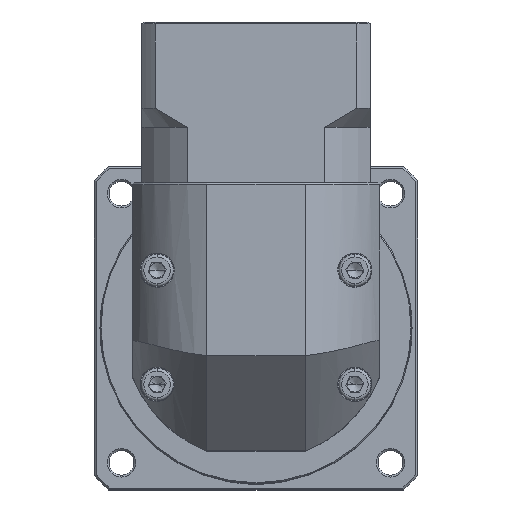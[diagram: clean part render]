
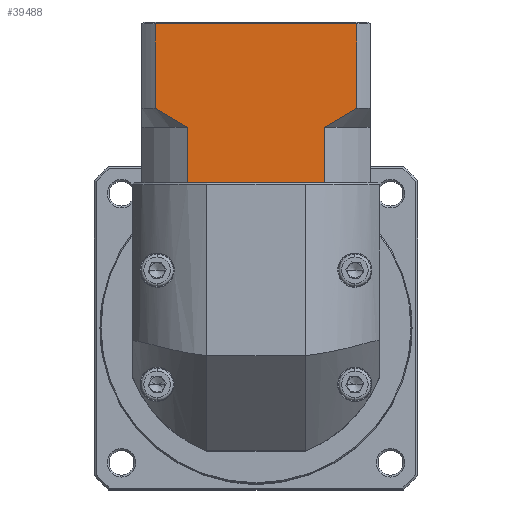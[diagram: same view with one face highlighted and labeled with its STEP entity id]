
A CAD part, top view. The second image highlights one B-rep face of the part: STEP entity #39488.
In plain terms, the highlighted planar face has unit normal (0, 0, 1).
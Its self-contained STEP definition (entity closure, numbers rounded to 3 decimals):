
#436 = VERTEX_POINT ( 'NONE', #126882 ) ;
#3073 = DIRECTION ( 'NONE',  ( 0., 0., -1. ) ) ;
#3935 = VERTEX_POINT ( 'NONE', #135924 ) ;
#4995 = CARTESIAN_POINT ( 'NONE',  ( -79.104, 93.278, 39.23 ) ) ;
#5825 = ORIENTED_EDGE ( 'NONE', *, *, #84017, .T. ) ;
#8866 = EDGE_CURVE ( 'NONE', #436, #20679, #84639, .T. ) ;
#9077 = VERTEX_POINT ( 'NONE', #47283 ) ;
#9106 = CARTESIAN_POINT ( 'NONE',  ( -67.132, 107.778, 39.23 ) ) ;
#10284 = VERTEX_POINT ( 'NONE', #45890 ) ;
#13516 = EDGE_CURVE ( 'NONE', #3935, #19823, #70612, .T. ) ;
#13572 = VECTOR ( 'NONE', #146207, 1000. ) ;
#15188 = EDGE_CURVE ( 'NONE', #9077, #46299, #96198, .T. ) ;
#19806 = LINE ( 'NONE', #33662, #113936 ) ;
#19823 = VERTEX_POINT ( 'NONE', #102069 ) ;
#20679 = VERTEX_POINT ( 'NONE', #156625 ) ;
#21797 = CARTESIAN_POINT ( 'NONE',  ( -31.076, 107.778, 39.23 ) ) ;
#25243 = CARTESIAN_POINT ( 'NONE',  ( -70.015, 109.329, 39.23 ) ) ;
#27470 = VECTOR ( 'NONE', #99664, 1000. ) ;
#28885 = VECTOR ( 'NONE', #31811, 1000. ) ;
#30969 = ORIENTED_EDGE ( 'NONE', *, *, #94186, .T. ) ;
#31811 = DIRECTION ( 'NONE',  ( 1., 0., 0. ) ) ;
#33164 = DIRECTION ( 'NONE',  ( -1., 0., 0. ) ) ;
#33662 = CARTESIAN_POINT ( 'NONE',  ( -79.104, 134.978, 39.23 ) ) ;
#36207 = VERTEX_POINT ( 'NONE', #141260 ) ;
#36264 = DIRECTION ( 'NONE',  ( 0., -1., 0. ) ) ;
#39319 = DIRECTION ( 'NONE',  ( 0., -1., 0. ) ) ;
#39488 = ADVANCED_FACE ( 'NONE', ( #107635 ), #87470, .F. ) ;
#41264 = DIRECTION ( 'NONE',  ( 0., 1., 0. ) ) ;
#45890 = CARTESIAN_POINT ( 'NONE',  ( -31.076, 93.278, 39.23 ) ) ;
#46299 = VERTEX_POINT ( 'NONE', #149725 ) ;
#47283 = CARTESIAN_POINT ( 'NONE',  ( -31.076, 107.778, 39.23 ) ) ;
#47488 = VECTOR ( 'NONE', #41264, 1000. ) ;
#49285 = CARTESIAN_POINT ( 'NONE',  ( -74.202, 111.878, 39.23 ) ) ;
#49821 = ORIENTED_EDGE ( 'NONE', *, *, #136361, .F. ) ;
#50004 = CARTESIAN_POINT ( 'NONE',  ( -22.647, 107.778, 39.23 ) ) ;
#51293 = ORIENTED_EDGE ( 'NONE', *, *, #8866, .T. ) ;
#53031 = ORIENTED_EDGE ( 'NONE', *, *, #15188, .T. ) ;
#54929 = CARTESIAN_POINT ( 'NONE',  ( -25.389, 111.002, 39.23 ) ) ;
#56577 = VECTOR ( 'NONE', #107371, 1000. ) ;
#58335 = EDGE_CURVE ( 'NONE', #9077, #10284, #90311, .T. ) ;
#62449 = EDGE_CURVE ( 'NONE', #78376, #10284, #150452, .T. ) ;
#65192 = CARTESIAN_POINT ( 'NONE',  ( -32.067, 93.278, 39.23 ) ) ;
#66789 = CARTESIAN_POINT ( 'NONE',  ( -29.62, 108.528, 39.23 ) ) ;
#70612 = LINE ( 'NONE', #102487, #47488 ) ;
#73894 = LINE ( 'NONE', #50004, #139303 ) ;
#74011 = CARTESIAN_POINT ( 'NONE',  ( -68.584, 108.525, 39.23 ) ) ;
#76629 = CARTESIAN_POINT ( 'NONE',  ( -79.104, 135.478, 39.23 ) ) ;
#78376 = VERTEX_POINT ( 'NONE', #65192 ) ;
#80878 = VECTOR ( 'NONE', #36264, 1000. ) ;
#84017 = EDGE_CURVE ( 'NONE', #3935, #128513, #114000, .T. ) ;
#84639 = LINE ( 'NONE', #4995, #28885 ) ;
#85908 = CARTESIAN_POINT ( 'NONE',  ( -75.562, 112.778, 39.23 ) ) ;
#87470 = PLANE ( 'NONE',  #130153 ) ;
#90131 = EDGE_LOOP ( 'NONE', ( #155188, #30969, #132637, #5825, #49821, #51293, #150153, #138583, #121424, #53031 ) ) ;
#90311 = LINE ( 'NONE', #21797, #80878 ) ;
#93095 = CARTESIAN_POINT ( 'NONE',  ( -24.009, 111.876, 39.23 ) ) ;
#94186 = EDGE_CURVE ( 'NONE', #36207, #19823, #19806, .T. ) ;
#96198 = B_SPLINE_CURVE_WITH_KNOTS ( 'NONE', 3,
 ( #153848, #66789, #152238, #54929, #93095, #154362 ),
 .UNSPECIFIED., .F., .F.,
 ( 4, 2, 4 ),
 ( 0.1, 0.104, 0.109 ),
 .UNSPECIFIED. ) ;
#99664 = DIRECTION ( 'NONE',  ( 1., 0., 0. ) ) ;
#99797 = DIRECTION ( 'NONE',  ( 0., 1., 0. ) ) ;
#102069 = CARTESIAN_POINT ( 'NONE',  ( -75.562, 134.978, 39.23 ) ) ;
#102487 = CARTESIAN_POINT ( 'NONE',  ( -75.562, 107.778, 39.23 ) ) ;
#107371 = DIRECTION ( 'NONE',  ( 0., 1., 0. ) ) ;
#107635 = FACE_OUTER_BOUND ( 'NONE', #90131, .T. ) ;
#108071 = CARTESIAN_POINT ( 'NONE',  ( -79.104, 93.278, 39.23 ) ) ;
#113470 = EDGE_CURVE ( 'NONE', #20679, #78376, #136541, .T. ) ;
#113936 = VECTOR ( 'NONE', #33164, 1000. ) ;
#114000 = B_SPLINE_CURVE_WITH_KNOTS ( 'NONE', 3,
 ( #85908, #49285, #135330, #25243, #74011, #114816 ),
 .UNSPECIFIED., .F., .F.,
 ( 4, 2, 4 ),
 ( 0.052, 0.057, 0.062 ),
 .UNSPECIFIED. ) ;
#114816 = CARTESIAN_POINT ( 'NONE',  ( -67.132, 107.778, 39.23 ) ) ;
#121424 = ORIENTED_EDGE ( 'NONE', *, *, #58335, .F. ) ;
#125930 = EDGE_CURVE ( 'NONE', #36207, #46299, #73894, .T. ) ;
#126882 = CARTESIAN_POINT ( 'NONE',  ( -67.132, 93.278, 39.23 ) ) ;
#128513 = VERTEX_POINT ( 'NONE', #159274 ) ;
#130153 = AXIS2_PLACEMENT_3D ( 'NONE', #76629, #3073, #99797 ) ;
#132637 = ORIENTED_EDGE ( 'NONE', *, *, #13516, .F. ) ;
#133577 = CARTESIAN_POINT ( 'NONE',  ( -79.104, 93.278, 39.23 ) ) ;
#135330 = CARTESIAN_POINT ( 'NONE',  ( -72.823, 111.005, 39.23 ) ) ;
#135924 = CARTESIAN_POINT ( 'NONE',  ( -75.562, 112.778, 39.23 ) ) ;
#136361 = EDGE_CURVE ( 'NONE', #436, #128513, #137429, .T. ) ;
#136541 = LINE ( 'NONE', #108071, #13572 ) ;
#137429 = LINE ( 'NONE', #9106, #56577 ) ;
#138583 = ORIENTED_EDGE ( 'NONE', *, *, #62449, .T. ) ;
#139303 = VECTOR ( 'NONE', #39319, 1000. ) ;
#141260 = CARTESIAN_POINT ( 'NONE',  ( -22.647, 134.978, 39.23 ) ) ;
#146207 = DIRECTION ( 'NONE',  ( 1., 0., 0. ) ) ;
#149725 = CARTESIAN_POINT ( 'NONE',  ( -22.647, 112.778, 39.23 ) ) ;
#150153 = ORIENTED_EDGE ( 'NONE', *, *, #113470, .T. ) ;
#150452 = LINE ( 'NONE', #133577, #27470 ) ;
#152238 = CARTESIAN_POINT ( 'NONE',  ( -28.194, 109.328, 39.23 ) ) ;
#153848 = CARTESIAN_POINT ( 'NONE',  ( -31.076, 107.778, 39.23 ) ) ;
#154362 = CARTESIAN_POINT ( 'NONE',  ( -22.647, 112.778, 39.23 ) ) ;
#155188 = ORIENTED_EDGE ( 'NONE', *, *, #125930, .F. ) ;
#156625 = CARTESIAN_POINT ( 'NONE',  ( -66.141, 93.278, 39.23 ) ) ;
#159274 = CARTESIAN_POINT ( 'NONE',  ( -67.132, 107.778, 39.23 ) ) ;
